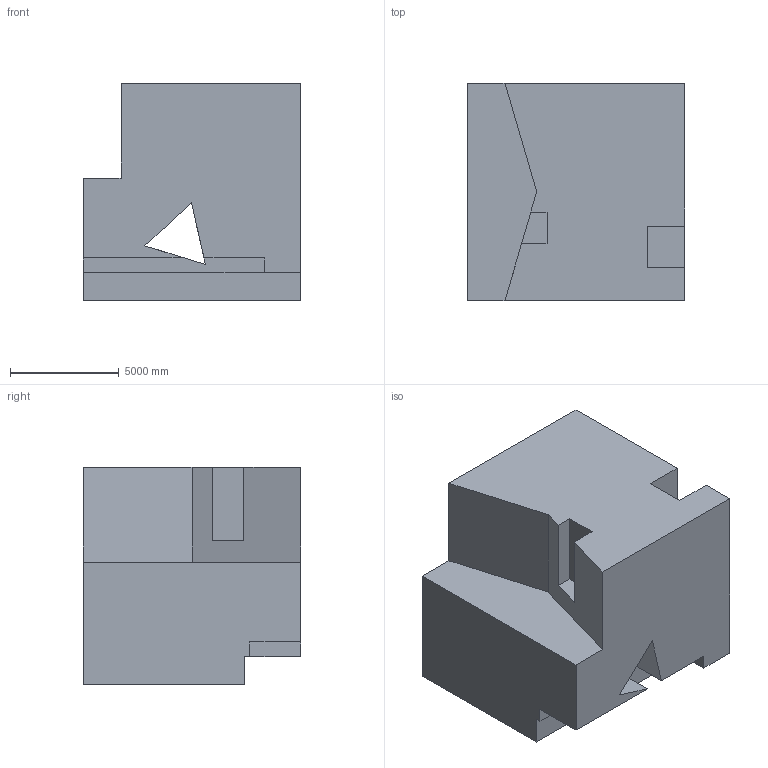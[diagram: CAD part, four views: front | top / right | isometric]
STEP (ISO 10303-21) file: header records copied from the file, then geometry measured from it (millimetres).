
FILE_DESCRIPTION (( 'STEP AP203' ), '1' );
FILE_NAME ('543.STEP', '2022-07-29T11:44:29', ( 'user' ), ( '' ), 'SwSTEP 2.0', 'SolidWorks 2021', '' );
FILE_SCHEMA (( 'CONFIG_CONTROL_DESIGN' ));
Length unit declared in the file: centimetre
Products named in the file (1): 543
Bounding box: 10000 x 10000 x 10000 mm (x, y, z)
Volume: 783742306115.3 mm3; surface area: 683463967 mm2
Topology: 1 solids, 1 shells, 26 faces, 75 edges, 50 vertices
Faces by surface type: plane 26
Entity records: 920 total; most frequent: CARTESIAN_POINT 152, ORIENTED_EDGE 150, DIRECTION 129, VECTOR 75, LINE 75, EDGE_CURVE 75, VERTEX_POINT 50, AXIS2_PLACEMENT_3D 27
